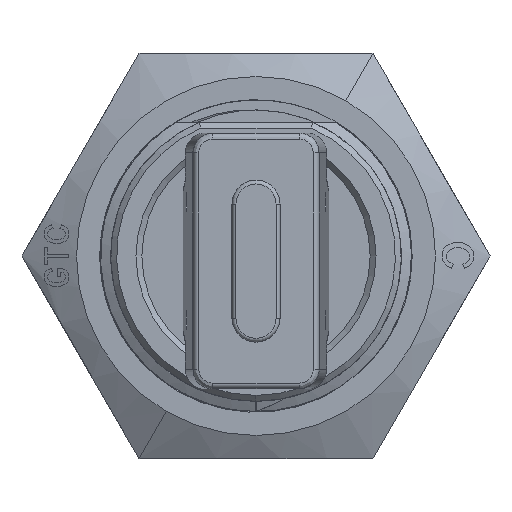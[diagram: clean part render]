
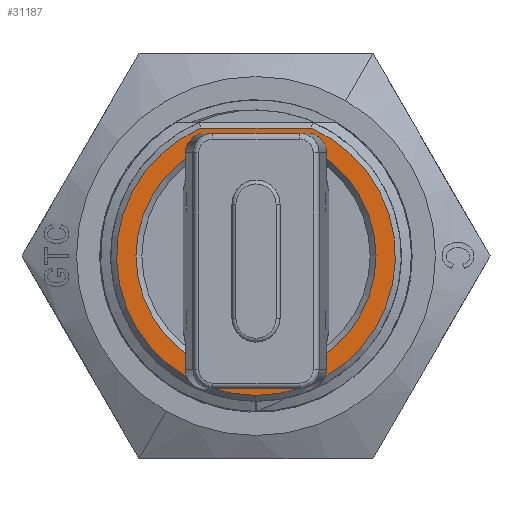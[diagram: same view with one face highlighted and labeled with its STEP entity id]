
A CAD part, left-side view. The second image highlights one B-rep face of the part: STEP entity #31187.
In plain terms, the highlighted planar face has unit normal (-1, 0, 0).
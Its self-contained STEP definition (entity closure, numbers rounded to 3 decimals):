
#363 = EDGE_CURVE ( 'NONE', #21856, #7858, #5437, .T. ) ;
#1388 = DIRECTION ( 'NONE',  ( 0., 0., -1. ) ) ;
#1461 = CIRCLE ( 'NONE', #27560, 6.1 ) ;
#1828 = EDGE_CURVE ( 'NONE', #18829, #16869, #1461, .T. ) ;
#2825 = CARTESIAN_POINT ( 'NONE',  ( 0., 0., 6.5 ) ) ;
#3108 = CARTESIAN_POINT ( 'NONE',  ( 0., 0., 0. ) ) ;
#3668 = DIRECTION ( 'NONE',  ( 1., 0., 0. ) ) ;
#3843 = CARTESIAN_POINT ( 'NONE',  ( 0., 0., -7.084 ) ) ;
#4443 = EDGE_CURVE ( 'NONE', #16869, #18829, #5339, .T. ) ;
#4640 = ORIENTED_EDGE ( 'NONE', *, *, #20535, .T. ) ;
#5198 = FACE_BOUND ( 'NONE', #15957, .T. ) ;
#5317 = CARTESIAN_POINT ( 'NONE',  ( 0., 2.815, 6.5 ) ) ;
#5339 = CIRCLE ( 'NONE', #23620, 6.1 ) ;
#5433 = ORIENTED_EDGE ( 'NONE', *, *, #13387, .T. ) ;
#5437 = LINE ( 'NONE', #2825, #29997 ) ;
#5761 = AXIS2_PLACEMENT_3D ( 'NONE', #7817, #22212, #19924 ) ;
#6260 = DIRECTION ( 'NONE',  ( -1., 0., 0. ) ) ;
#7023 = DIRECTION ( 'NONE',  ( 1., 0., 0. ) ) ;
#7817 = CARTESIAN_POINT ( 'NONE',  ( 0., 0., 0. ) ) ;
#7858 = VERTEX_POINT ( 'NONE', #5317 ) ;
#8083 = EDGE_LOOP ( 'NONE', ( #4640, #5433, #25128 ) ) ;
#9063 = CARTESIAN_POINT ( 'NONE',  ( 0., 0., 0. ) ) ;
#9138 = VERTEX_POINT ( 'NONE', #3843 ) ;
#9942 = PLANE ( 'NONE',  #5761 ) ;
#11691 = AXIS2_PLACEMENT_3D ( 'NONE', #3108, #12440, #17992 ) ;
#12236 = FACE_OUTER_BOUND ( 'NONE', #8083, .T. ) ;
#12440 = DIRECTION ( 'NONE',  ( -1., 0., 0. ) ) ;
#12792 = DIRECTION ( 'NONE',  ( 0., 1., 0. ) ) ;
#13387 = EDGE_CURVE ( 'NONE', #9138, #21856, #21111, .T. ) ;
#14400 = CARTESIAN_POINT ( 'NONE',  ( 0., -2.815, 6.5 ) ) ;
#15957 = EDGE_LOOP ( 'NONE', ( #31910, #18758 ) ) ;
#16869 = VERTEX_POINT ( 'NONE', #18569 ) ;
#17992 = DIRECTION ( 'NONE',  ( 0., 0., -1. ) ) ;
#18202 = CARTESIAN_POINT ( 'NONE',  ( 0., 0., 0. ) ) ;
#18569 = CARTESIAN_POINT ( 'NONE',  ( 0., 0., -6.1 ) ) ;
#18758 = ORIENTED_EDGE ( 'NONE', *, *, #4443, .T. ) ;
#18829 = VERTEX_POINT ( 'NONE', #26847 ) ;
#19924 = DIRECTION ( 'NONE',  ( 0., 0., -1. ) ) ;
#20535 = EDGE_CURVE ( 'NONE', #7858, #9138, #21338, .T. ) ;
#20822 = DIRECTION ( 'NONE',  ( 0., 0., -1. ) ) ;
#21111 = CIRCLE ( 'NONE', #11691, 7.084 ) ;
#21338 = CIRCLE ( 'NONE', #22884, 7.084 ) ;
#21856 = VERTEX_POINT ( 'NONE', #14400 ) ;
#22212 = DIRECTION ( 'NONE',  ( 1., 0., 0. ) ) ;
#22884 = AXIS2_PLACEMENT_3D ( 'NONE', #18202, #6260, #20822 ) ;
#23620 = AXIS2_PLACEMENT_3D ( 'NONE', #9063, #3668, #1388 ) ;
#24998 = CARTESIAN_POINT ( 'NONE',  ( 0., 0., 0. ) ) ;
#25128 = ORIENTED_EDGE ( 'NONE', *, *, #363, .T. ) ;
#26847 = CARTESIAN_POINT ( 'NONE',  ( 0., 0., 6.1 ) ) ;
#27560 = AXIS2_PLACEMENT_3D ( 'NONE', #24998, #7023, #30048 ) ;
#29997 = VECTOR ( 'NONE', #12792, 1000. ) ;
#30048 = DIRECTION ( 'NONE',  ( 0., 0., -1. ) ) ;
#31187 = ADVANCED_FACE ( 'NONE', ( #5198, #12236 ), #9942, .F. ) ;
#31910 = ORIENTED_EDGE ( 'NONE', *, *, #1828, .T. ) ;
